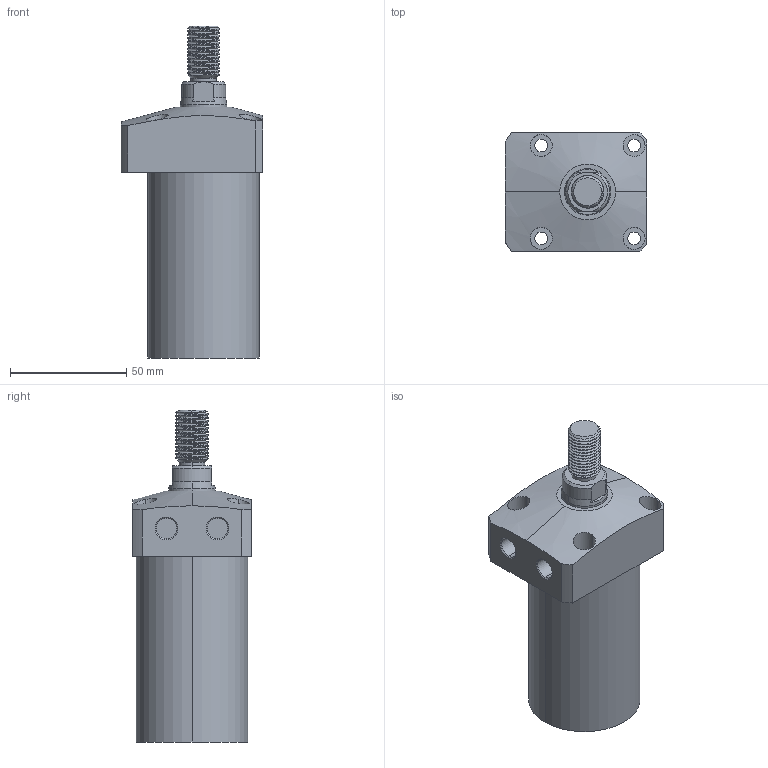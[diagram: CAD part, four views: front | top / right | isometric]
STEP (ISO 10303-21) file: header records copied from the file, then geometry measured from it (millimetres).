
FILE_DESCRIPTION (( 'STEP AP203' ), '1' );
FILE_NAME ('CLL-048CT-070.STEP', '2020-01-10T01:16:45', ( '' ), ( '' ), 'SwSTEP 2.0', 'SolidWorks 2015', '' );
FILE_SCHEMA (( 'CONFIG_CONTROL_DESIGN' ));
Length unit declared in the file: millimetre
Products named in the file (1): CLL-048CT-070
Bounding box: 61 x 51 x 143 mm (x, y, z)
Volume: 223798 mm3; surface area: 28028.8 mm2
Topology: 1 solids, 1 shells, 105 faces, 262 edges, 170 vertices
Faces by surface type: cylinder 63, plane 24, cone 16, bspline 2
Entity records: 5135 total; most frequent: CARTESIAN_POINT 2691, ORIENTED_EDGE 524, DIRECTION 464, EDGE_CURVE 262, AXIS2_PLACEMENT_3D 184, VERTEX_POINT 170, EDGE_LOOP 124, FACE_OUTER_BOUND 105
